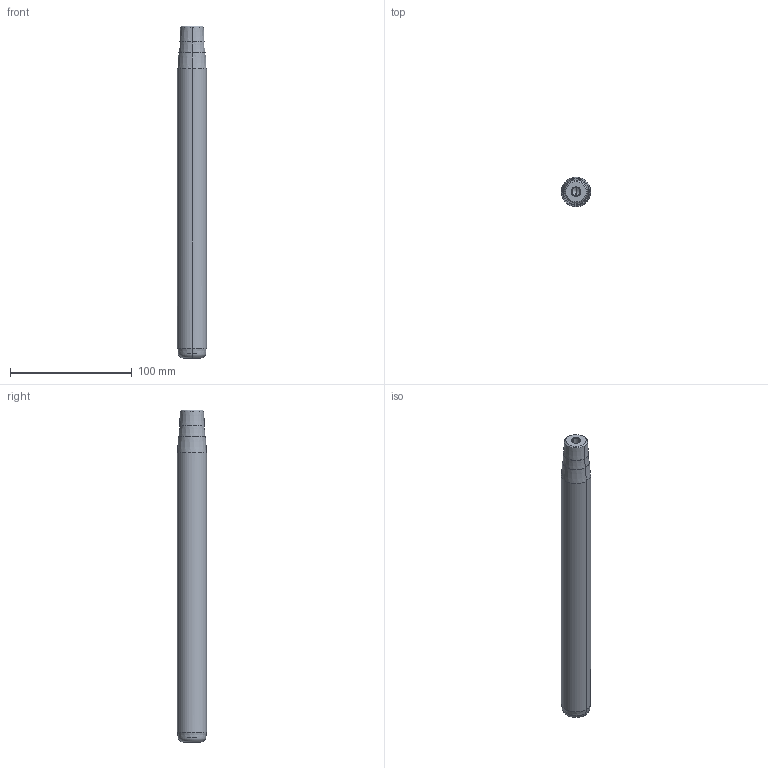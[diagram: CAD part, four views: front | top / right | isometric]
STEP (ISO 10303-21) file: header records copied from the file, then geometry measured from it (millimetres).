
FILE_DESCRIPTION(('CATIA V5 STEP Exchange'),'2;1');
FILE_NAME('C:\Users\Utente\Desktop\IO LAVORO\3D X SITO CF\X SITO\722\722-24x250x273.stp','2021-01-09T08:27:24+00:00',('none'),('none'),'CATIA Version 5 Release 20 GA (IN-10)','CATIA V5 STEP AP203','none');
FILE_SCHEMA(('CONFIG_CONTROL_DESIGN'));
Length unit declared in the file: millimetre
Products named in the file (1): 722-24x250x273
Bounding box: 24 x 24 x 273 mm (x, y, z)
Volume: 117738.2 mm3; surface area: 21908.1 mm2
Topology: 1 solids, 1 shells, 32 faces, 98 edges, 66 vertices
Faces by surface type: cone 22, cylinder 6, plane 2, torus 2
Entity records: 1166 total; most frequent: CARTESIAN_POINT 279, ORIENTED_EDGE 188, DIRECTION 148, EDGE_CURVE 94, AXIS2_PLACEMENT_3D 89, VERTEX_POINT 66, CIRCLE 56, EDGE_LOOP 34
